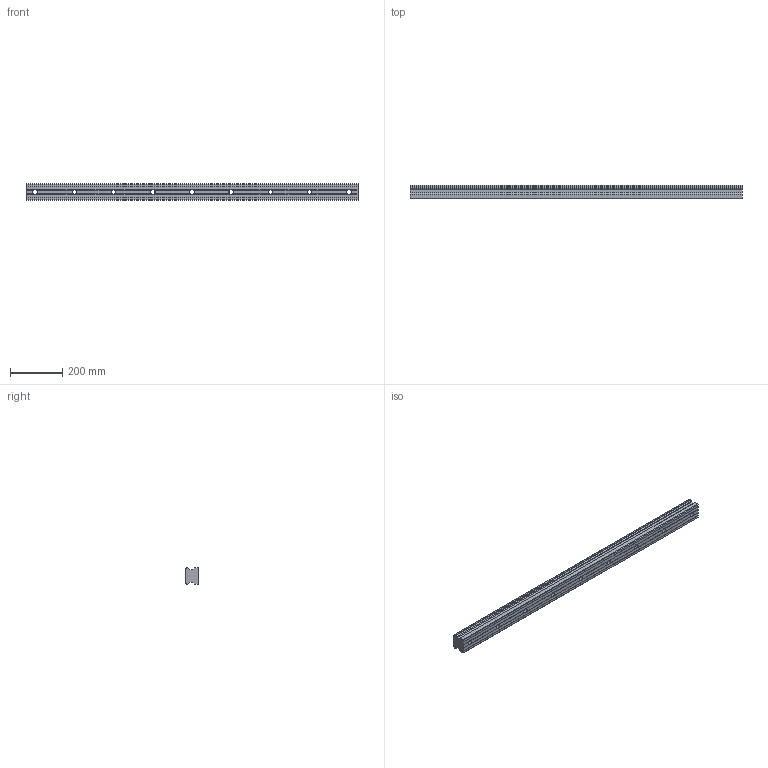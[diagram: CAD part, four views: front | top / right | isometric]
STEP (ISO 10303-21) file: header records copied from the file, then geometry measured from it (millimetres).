
FILE_DESCRIPTION(/* description */ ('STEP AP203'),/* implementation_level */ '2;1');
FILE_NAME(/* name */ 'SHS65-1270L(GK) RAIL(35)',/* time_stamp */ '2024-05-14T03:43:17+02:00',/* author */ ('License CC BY-ND 4.0'),/* organization */ ('CADENAS'),/* preprocessor_version */ 'ST-DEVELOPER v19.3',/* originating_system */ 'PARTsolutions',/* authorisation */ ' ');
FILE_SCHEMA (('CONFIG_CONTROL_DESIGN'));
Length unit declared in the file: millimetre
Products named in the file (1): SHS65-1270L(GK) RAIL(35)
Bounding box: 1270 x 53 x 63 mm (x, y, z)
Volume: 3661643.7 mm3; surface area: 334630.8 mm2
Topology: 1 solids, 1 shells, 108 faces, 318 edges, 212 vertices
Faces by surface type: plane 66, cylinder 42
Full cylindrical faces by diameter (mm): 18 x9, 26 x9
Entity records: 3564 total; most frequent: CARTESIAN_POINT 711, DIRECTION 584, ORIENTED_EDGE 582, EDGE_CURVE 291, AXIS2_PLACEMENT_3D 220, VERTEX_POINT 203, LINE 144, VECTOR 144
